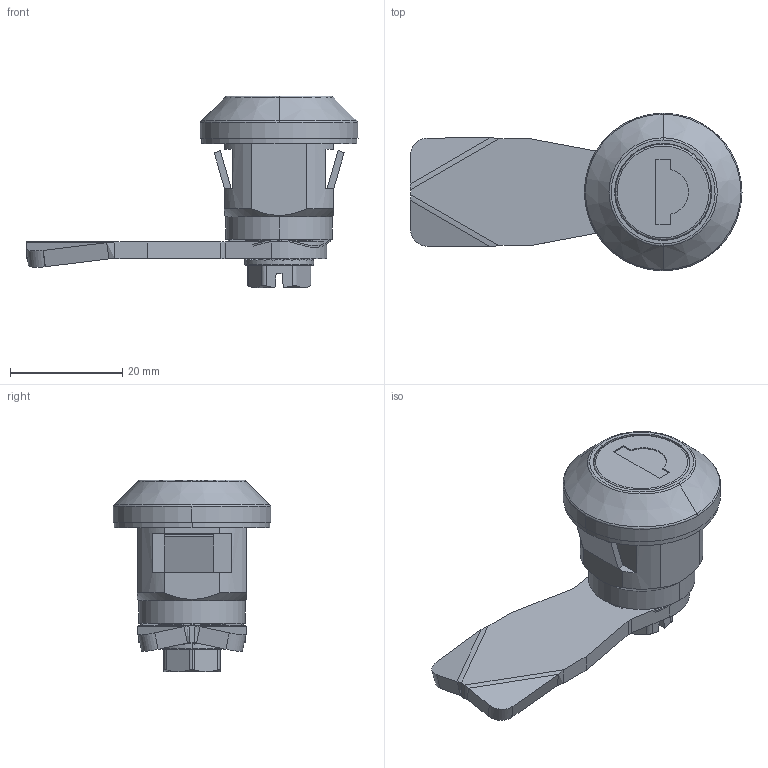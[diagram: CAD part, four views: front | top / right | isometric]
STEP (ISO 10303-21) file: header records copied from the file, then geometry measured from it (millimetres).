
FILE_DESCRIPTION (( 'STEP AP214' ), '1' );
FILE_NAME ('M22ZW_90.STEP', '2016-08-22T08:29:14', ( 'Krzysiek' ), ( '' ), 'SwSTEP 2.0', 'SolidWorks 2015', '' );
FILE_SCHEMA (( 'AUTOMOTIVE_DESIGN' ));
Length unit declared in the file: millimetre
Products named in the file (7): M22ZW_90; DIN 6921_M6x6; 2.IP65.002_A; Podk-adka falista (4x giàta)_A; 1C.J-1XX.GH.L_#3, 1.00.18.45; Wk-adka 1333_1333 IP; 2.K.M22ZW.002_90
Assembly tree (6 placements, depth 2):
  M22ZW_90
    2.K.M22ZW.002_90
    Wk-adka 1333_1333 IP
    1C.J-1XX.GH.L_#3, 1.00.18.45
    Podk-adka falista (4x giàta)_A
    2.IP65.002_A
    DIN 6921_M6x6
Bounding box: 59.22 x 28.13 x 34.16 mm (x, y, z)
Volume: 12286.2 mm3; surface area: 9601.4 mm2
Topology: 6 solids, 6 shells, 320 faces, 827 edges, 532 vertices
Faces by surface type: plane 191, cylinder 78, cone 28, bspline 23
Entity records: 11490 total; most frequent: CARTESIAN_POINT 3756, ORIENTED_EDGE 1650, DIRECTION 1470, EDGE_CURVE 825, VERTEX_POINT 532, AXIS2_PLACEMENT_3D 520, VECTOR 430, LINE 430
